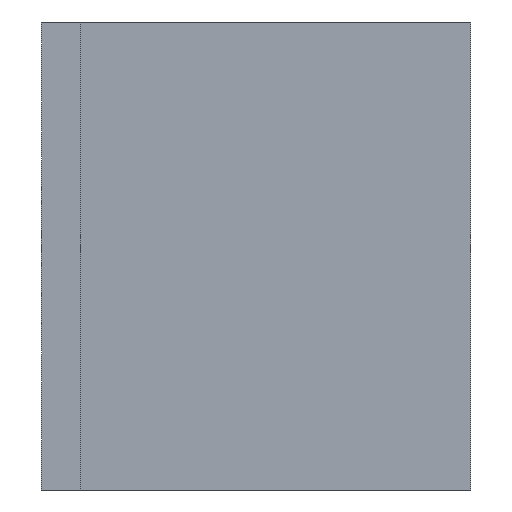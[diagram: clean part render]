
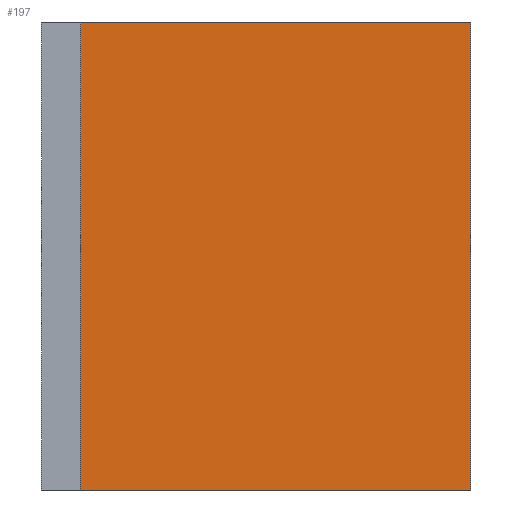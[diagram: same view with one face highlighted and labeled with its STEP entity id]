
A CAD part, left-side view. The second image highlights one B-rep face of the part: STEP entity #197.
In plain terms, the highlighted planar face has unit normal (-1, 0, 0).
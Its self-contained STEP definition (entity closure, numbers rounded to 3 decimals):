
#10 = CARTESIAN_POINT ( 'NONE',  ( 0., 20., 0. ) ) ;
#25 = CARTESIAN_POINT ( 'NONE',  ( 0., 20., -24. ) ) ;
#38 = AXIS2_PLACEMENT_3D ( 'NONE', #350, #58, #265 ) ;
#58 = DIRECTION ( 'NONE',  ( -1., 0., 0. ) ) ;
#74 = DIRECTION ( 'NONE',  ( 0., 0., 1. ) ) ;
#84 = EDGE_LOOP ( 'NONE', ( #235, #308, #392, #322 ) ) ;
#98 = EDGE_CURVE ( 'NONE', #251, #162, #405, .T. ) ;
#100 = CARTESIAN_POINT ( 'NONE',  ( 0., 20., -24. ) ) ;
#134 = VECTOR ( 'NONE', #74, 1000. ) ;
#136 = DIRECTION ( 'NONE',  ( 0., 0., 1. ) ) ;
#162 = VERTEX_POINT ( 'NONE', #334 ) ;
#174 = LINE ( 'NONE', #351, #268 ) ;
#182 = VERTEX_POINT ( 'NONE', #10 ) ;
#197 = ADVANCED_FACE ( 'NONE', ( #209 ), #213, .T. ) ;
#209 = FACE_OUTER_BOUND ( 'NONE', #84, .T. ) ;
#210 = VECTOR ( 'NONE', #399, 1000. ) ;
#213 = PLANE ( 'NONE',  #38 ) ;
#231 = CARTESIAN_POINT ( 'NONE',  ( 0., 0., -24. ) ) ;
#235 = ORIENTED_EDGE ( 'NONE', *, *, #372, .F. ) ;
#251 = VERTEX_POINT ( 'NONE', #231 ) ;
#252 = CARTESIAN_POINT ( 'NONE',  ( 0., 0., -24. ) ) ;
#254 = LINE ( 'NONE', #25, #134 ) ;
#265 = DIRECTION ( 'NONE',  ( 0., 0., 1. ) ) ;
#268 = VECTOR ( 'NONE', #480, 1000. ) ;
#294 = VERTEX_POINT ( 'NONE', #100 ) ;
#308 = ORIENTED_EDGE ( 'NONE', *, *, #391, .F. ) ;
#317 = LINE ( 'NONE', #445, #210 ) ;
#322 = ORIENTED_EDGE ( 'NONE', *, *, #98, .T. ) ;
#330 = VECTOR ( 'NONE', #136, 1000. ) ;
#334 = CARTESIAN_POINT ( 'NONE',  ( 0., 0., 0. ) ) ;
#350 = CARTESIAN_POINT ( 'NONE',  ( 0., 0., -24. ) ) ;
#351 = CARTESIAN_POINT ( 'NONE',  ( 0., 0., 0. ) ) ;
#372 = EDGE_CURVE ( 'NONE', #182, #162, #174, .T. ) ;
#391 = EDGE_CURVE ( 'NONE', #294, #182, #254, .T. ) ;
#392 = ORIENTED_EDGE ( 'NONE', *, *, #401, .T. ) ;
#399 = DIRECTION ( 'NONE',  ( 0., -1., 0. ) ) ;
#401 = EDGE_CURVE ( 'NONE', #294, #251, #317, .T. ) ;
#405 = LINE ( 'NONE', #252, #330 ) ;
#445 = CARTESIAN_POINT ( 'NONE',  ( 0., 0., -24. ) ) ;
#480 = DIRECTION ( 'NONE',  ( 0., -1., 0. ) ) ;
